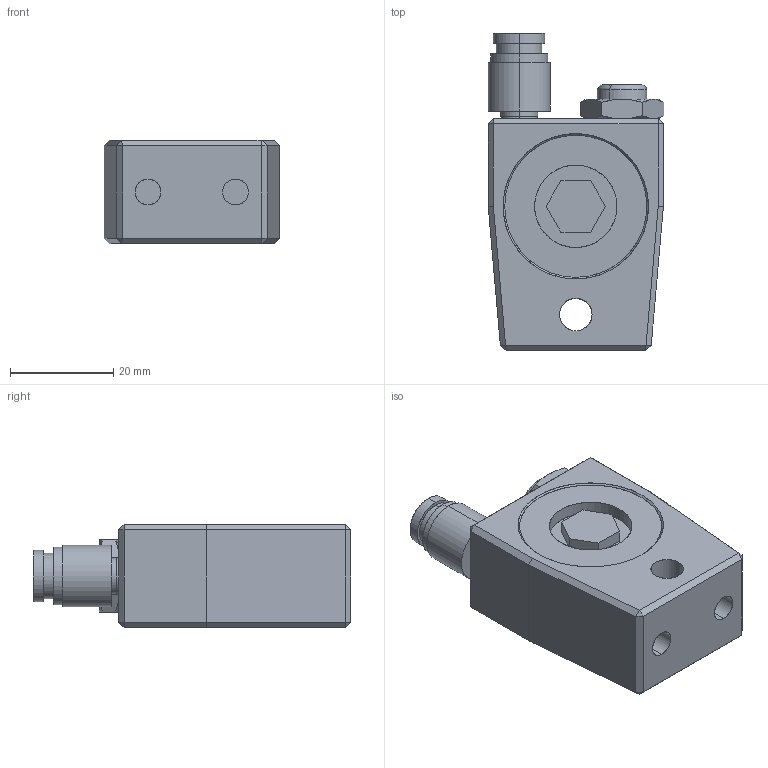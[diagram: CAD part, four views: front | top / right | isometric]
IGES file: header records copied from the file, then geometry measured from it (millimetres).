
Start section: SolidWorks IGES file using analytic representation for surfaces
Global section: file name: V:\WORK\08133\HP 寸法図\turbine\BTS24\test_E860000-000 BTS24_defeature.IGS,15; native system: HSolidWorks 2018; preprocessor: SolidWorks 2018; author: n-udagawa; date: 230118.115059; units: millimetre
Bounding box: 34.08 x 61.6 x 20 mm (x, y, z)
Surface area: 8159 mm2 (no closed solid volume)
Topology: 0 solids, 0 shells, 115 faces, 2129 edges, 2368 vertices
Faces by surface type: bspline 65, revolution 50
